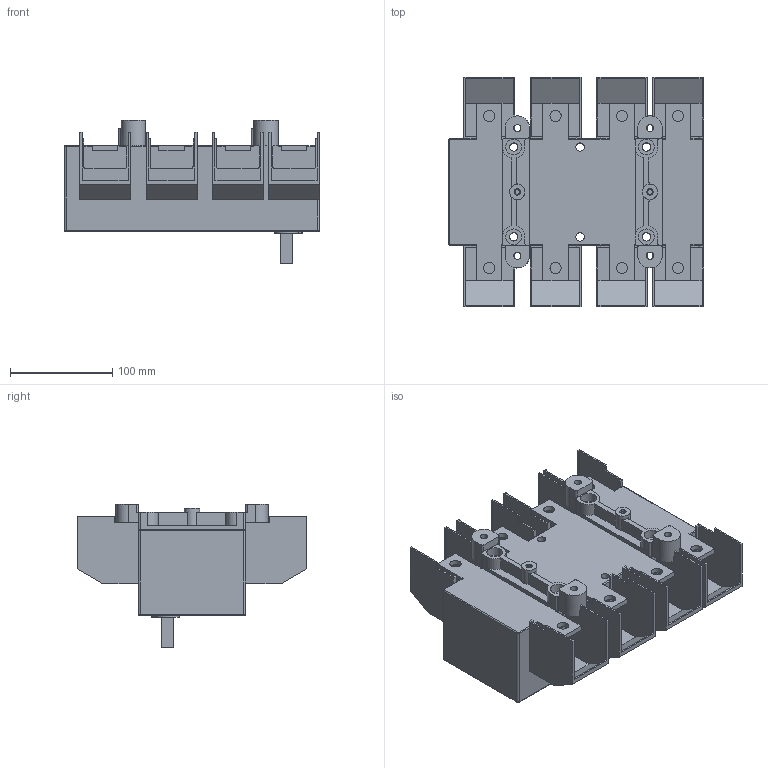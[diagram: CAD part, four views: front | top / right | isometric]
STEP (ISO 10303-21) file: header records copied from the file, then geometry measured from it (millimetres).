
FILE_DESCRIPTION(/* description */ (''),/* implementation_level */ '2;1');
FILE_NAME(/* name */ 'RA630 P3 N z oslona zaciskow.stp',/* time_stamp */ '2021-08-19T07:46:02+02:00',/* author */ (''),/* organization */ (''),/* preprocessor_version */ 'ST-DEVELOPER v18.1',/* originating_system */ 'SIEMENS PLM Software NX 1965',/* authorisation */ '');
FILE_SCHEMA (('AUTOMOTIVE_DESIGN { 1 0 10303 214 3 1 1 1 }'));
Length unit declared in the file: millimetre
Products named in the file (1): RA630 P3 N z oslona zaciskow_stp
Bounding box: 250 x 225 x 141 mm (x, y, z)
Volume: 2437723.3 mm3; surface area: 335859.1 mm2
Topology: 1 solids, 1 shells, 434 faces, 1280 edges, 842 vertices
Faces by surface type: plane 320, cylinder 106, torus 5, bspline 3
Full cylindrical faces by diameter (mm): 4.8 x2, 6.2 x2, 7 x4, 8.2 x6, 11 x8, 14 x4, 15 x2, 15.5 x4
Entity records: 14245 total; most frequent: CARTESIAN_POINT 2560, ORIENTED_EDGE 2464, DIRECTION 2352, EDGE_CURVE 1232, LINE 972, VECTOR 972, VERTEX_POINT 826, AXIS2_PLACEMENT_3D 690
